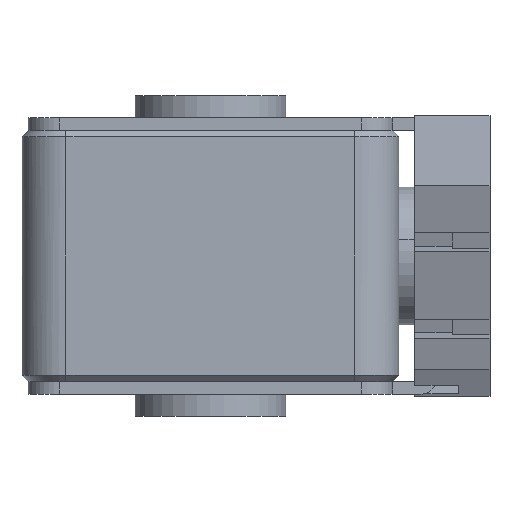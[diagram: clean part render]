
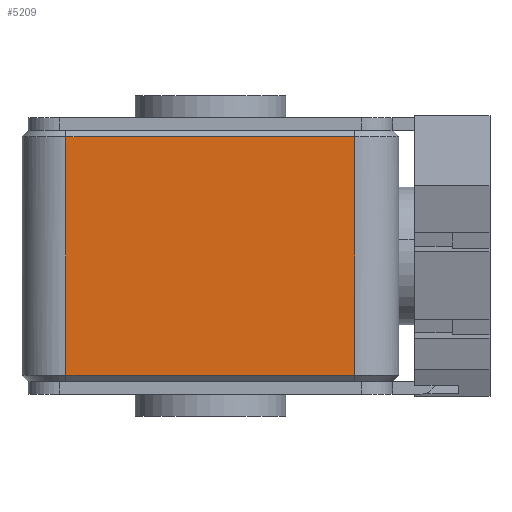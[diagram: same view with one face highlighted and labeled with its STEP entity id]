
A CAD part, left-side view. The second image highlights one B-rep face of the part: STEP entity #5209.
In plain terms, the highlighted planar face has unit normal (-1, 0, 0).
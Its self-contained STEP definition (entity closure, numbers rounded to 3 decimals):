
#25 = CARTESIAN_POINT ( 'NONE',  ( -30., -23., -19. ) ) ;
#86 = ORIENTED_EDGE ( 'NONE', *, *, #3761, .F. ) ;
#189 = VERTEX_POINT ( 'NONE', #14309 ) ;
#575 = CARTESIAN_POINT ( 'NONE',  ( -30., 7.667, 19. ) ) ;
#588 = DIRECTION ( 'NONE',  ( 0., 0., -1. ) ) ;
#684 = VERTEX_POINT ( 'NONE', #1272 ) ;
#861 = VECTOR ( 'NONE', #8803, 1000. ) ;
#1048 = PLANE ( 'NONE',  #14199 ) ;
#1272 = CARTESIAN_POINT ( 'NONE',  ( -30., -23., 19. ) ) ;
#1646 = CARTESIAN_POINT ( 'NONE',  ( -30., 23., 19. ) ) ;
#3211 = B_SPLINE_CURVE_WITH_KNOTS ( 'NONE', 3,
 ( #25, #8910, #6421, #8966 ),
 .UNSPECIFIED., .F., .F.,
 ( 4, 4 ),
 ( 0., 1. ),
 .UNSPECIFIED. ) ;
#3761 = EDGE_CURVE ( 'NONE', #7162, #684, #14601, .T. ) ;
#4288 = ORIENTED_EDGE ( 'NONE', *, *, #12319, .F. ) ;
#5170 = LINE ( 'NONE', #6938, #13579 ) ;
#5209 = ADVANCED_FACE ( 'NONE', ( #10009 ), #1048, .T. ) ;
#5436 = LINE ( 'NONE', #8535, #861 ) ;
#5549 = CARTESIAN_POINT ( 'NONE',  ( -30., -23., 19. ) ) ;
#5602 = CARTESIAN_POINT ( 'NONE',  ( -30., -7.667, 19. ) ) ;
#6300 = ORIENTED_EDGE ( 'NONE', *, *, #16144, .F. ) ;
#6421 = CARTESIAN_POINT ( 'NONE',  ( -30., 7.667, -19. ) ) ;
#6938 = CARTESIAN_POINT ( 'NONE',  ( -30., 23., 19. ) ) ;
#7162 = VERTEX_POINT ( 'NONE', #9153 ) ;
#8535 = CARTESIAN_POINT ( 'NONE',  ( -30., -23., 19. ) ) ;
#8803 = DIRECTION ( 'NONE',  ( 0., 0., -1. ) ) ;
#8910 = CARTESIAN_POINT ( 'NONE',  ( -30., -7.667, -19. ) ) ;
#8966 = CARTESIAN_POINT ( 'NONE',  ( -30., 23., -19. ) ) ;
#9153 = CARTESIAN_POINT ( 'NONE',  ( -30., 23., 19. ) ) ;
#9844 = EDGE_LOOP ( 'NONE', ( #13727, #4288, #6300, #86 ) ) ;
#10009 = FACE_OUTER_BOUND ( 'NONE', #9844, .T. ) ;
#11077 = DIRECTION ( 'NONE',  ( -1., 0., 0. ) ) ;
#11182 = CARTESIAN_POINT ( 'NONE',  ( -30., 30., -20. ) ) ;
#12319 = EDGE_CURVE ( 'NONE', #13726, #189, #3211, .T. ) ;
#12423 = DIRECTION ( 'NONE',  ( 0., 0., 1. ) ) ;
#13579 = VECTOR ( 'NONE', #588, 1000. ) ;
#13726 = VERTEX_POINT ( 'NONE', #13782 ) ;
#13727 = ORIENTED_EDGE ( 'NONE', *, *, #14355, .T. ) ;
#13782 = CARTESIAN_POINT ( 'NONE',  ( -30., -23., -19. ) ) ;
#14199 = AXIS2_PLACEMENT_3D ( 'NONE', #11182, #11077, #12423 ) ;
#14309 = CARTESIAN_POINT ( 'NONE',  ( -30., 23., -19. ) ) ;
#14355 = EDGE_CURVE ( 'NONE', #7162, #189, #5170, .T. ) ;
#14601 = B_SPLINE_CURVE_WITH_KNOTS ( 'NONE', 3,
 ( #1646, #575, #5602, #5549 ),
 .UNSPECIFIED., .F., .F.,
 ( 4, 4 ),
 ( 0., 1. ),
 .UNSPECIFIED. ) ;
#16144 = EDGE_CURVE ( 'NONE', #684, #13726, #5436, .T. ) ;
